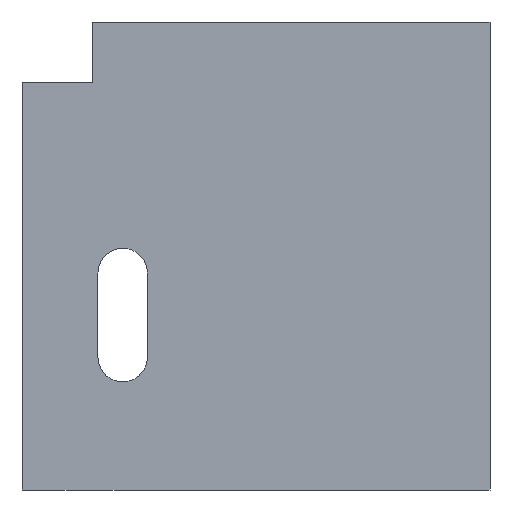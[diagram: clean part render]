
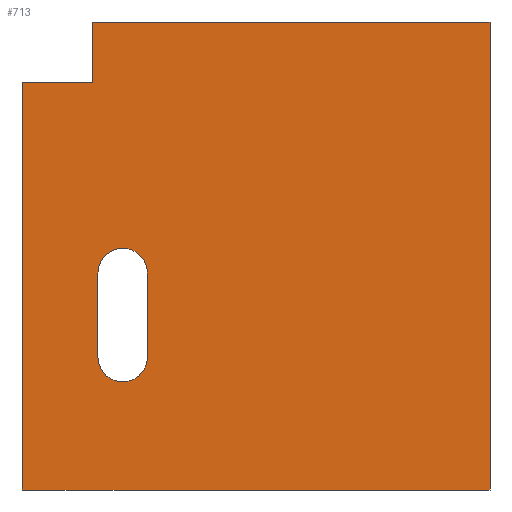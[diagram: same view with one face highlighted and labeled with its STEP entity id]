
A CAD part, left-side view. The second image highlights one B-rep face of the part: STEP entity #713.
In plain terms, the highlighted planar face has unit normal (-1, 0, 0).
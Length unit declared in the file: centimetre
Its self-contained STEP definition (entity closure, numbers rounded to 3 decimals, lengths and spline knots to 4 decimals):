
#3 = CARTESIAN_POINT ( 'NONE',  ( 0., 849.9661, 871.1277 ) ) ;
#6 = CARTESIAN_POINT ( 'NONE',  ( 0., 784.9554, 284.007 ) ) ;
#36 = EDGE_CURVE ( 'NONE', #555, #380, #587, .T. ) ;
#71 = ORIENTED_EDGE ( 'NONE', *, *, #340, .T. ) ;
#73 = CARTESIAN_POINT ( 'NONE',  ( 0., 1000., 871.1277 ) ) ;
#76 = EDGE_CURVE ( 'NONE', #1245, #1369, #1883, .T. ) ;
#79 = AXIS2_PLACEMENT_3D ( 'NONE', #6, #2086, #663 ) ;
#86 = FACE_BOUND ( 'NONE', #1870, .T. ) ;
#128 = DIRECTION ( 'NONE',  ( 0., -1., 0. ) ) ;
#138 = LINE ( 'NONE', #1440, #259 ) ;
#155 = CARTESIAN_POINT ( 'NONE',  ( 0., 784.9554, 284.007 ) ) ;
#194 = CARTESIAN_POINT ( 'NONE',  ( 0., 784.9554, 231.1632 ) ) ;
#196 = LINE ( 'NONE', #644, #763 ) ;
#259 = VECTOR ( 'NONE', #492, 100. ) ;
#273 = PLANE ( 'NONE',  #726 ) ;
#286 = DIRECTION ( 'NONE',  ( 0., -1., 0. ) ) ;
#294 = LINE ( 'NONE', #1586, #884 ) ;
#320 = LINE ( 'NONE', #822, #1523 ) ;
#340 = EDGE_CURVE ( 'NONE', #911, #709, #1749, .T. ) ;
#367 = EDGE_CURVE ( 'NONE', #555, #1245, #320, .T. ) ;
#369 = VERTEX_POINT ( 'NONE', #638 ) ;
#380 = VERTEX_POINT ( 'NONE', #3 ) ;
#442 = CARTESIAN_POINT ( 'NONE',  ( 0., 1000., 1000. ) ) ;
#480 = CARTESIAN_POINT ( 'NONE',  ( 0., 0., 1000. ) ) ;
#492 = DIRECTION ( 'NONE',  ( 0., 0., 1. ) ) ;
#534 = ORIENTED_EDGE ( 'NONE', *, *, #1714, .F. ) ;
#549 = CARTESIAN_POINT ( 'NONE',  ( 0., 732.1115, 463.5552 ) ) ;
#555 = VERTEX_POINT ( 'NONE', #73 ) ;
#559 = CIRCLE ( 'NONE', #1806, 52.8438 ) ;
#587 = LINE ( 'NONE', #1894, #1086 ) ;
#603 = ORIENTED_EDGE ( 'NONE', *, *, #36, .F. ) ;
#609 = VECTOR ( 'NONE', #286, 100. ) ;
#618 = DIRECTION ( 'NONE',  ( 0., 0., 1. ) ) ;
#622 = CARTESIAN_POINT ( 'NONE',  ( 0., 1000., 0. ) ) ;
#630 = VERTEX_POINT ( 'NONE', #888 ) ;
#638 = CARTESIAN_POINT ( 'NONE',  ( 0., 732.1115, 284.007 ) ) ;
#644 = CARTESIAN_POINT ( 'NONE',  ( 0., 732.1115, 284.007 ) ) ;
#654 = CARTESIAN_POINT ( 'NONE',  ( 0., 837.7992, 284.007 ) ) ;
#663 = DIRECTION ( 'NONE',  ( 0., 0., 1. ) ) ;
#673 = VECTOR ( 'NONE', #618, 100. ) ;
#676 = ORIENTED_EDGE ( 'NONE', *, *, #367, .T. ) ;
#709 = VERTEX_POINT ( 'NONE', #1068 ) ;
#713 = ADVANCED_FACE ( 'NONE', ( #86, #1739 ), #273, .F. ) ;
#726 = AXIS2_PLACEMENT_3D ( 'NONE', #442, #1238, #1888 ) ;
#763 = VECTOR ( 'NONE', #1921, 100. ) ;
#779 = ORIENTED_EDGE ( 'NONE', *, *, #809, .T. ) ;
#795 = CIRCLE ( 'NONE', #79, 52.8438 ) ;
#809 = EDGE_CURVE ( 'NONE', #2015, #911, #559, .T. ) ;
#822 = CARTESIAN_POINT ( 'NONE',  ( 0., 1000., 1000. ) ) ;
#884 = VECTOR ( 'NONE', #128, 100. ) ;
#888 = CARTESIAN_POINT ( 'NONE',  ( 0., 849.9661, 1000. ) ) ;
#911 = VERTEX_POINT ( 'NONE', #654 ) ;
#934 = CARTESIAN_POINT ( 'NONE',  ( 0., 1000., 0. ) ) ;
#936 = EDGE_CURVE ( 'NONE', #369, #2015, #795, .T. ) ;
#942 = VECTOR ( 'NONE', #2075, 100. ) ;
#948 = DIRECTION ( 'NONE',  ( 1., 0., 0. ) ) ;
#969 = ORIENTED_EDGE ( 'NONE', *, *, #988, .T. ) ;
#984 = AXIS2_PLACEMENT_3D ( 'NONE', #1630, #1266, #1746 ) ;
#988 = EDGE_CURVE ( 'NONE', #1508, #369, #196, .T. ) ;
#1005 = CARTESIAN_POINT ( 'NONE',  ( 0., 0., 1000. ) ) ;
#1068 = CARTESIAN_POINT ( 'NONE',  ( 0., 837.7992, 463.5552 ) ) ;
#1086 = VECTOR ( 'NONE', #1581, 100. ) ;
#1111 = LINE ( 'NONE', #480, #942 ) ;
#1179 = EDGE_LOOP ( 'NONE', ( #1226, #1252, #603, #676, #2009, #534 ) ) ;
#1226 = ORIENTED_EDGE ( 'NONE', *, *, #1776, .F. ) ;
#1238 = DIRECTION ( 'NONE',  ( 1., 0., 0. ) ) ;
#1245 = VERTEX_POINT ( 'NONE', #622 ) ;
#1252 = ORIENTED_EDGE ( 'NONE', *, *, #1301, .F. ) ;
#1266 = DIRECTION ( 'NONE',  ( 1., 0., 0. ) ) ;
#1301 = EDGE_CURVE ( 'NONE', #380, #630, #138, .T. ) ;
#1369 = VERTEX_POINT ( 'NONE', #1606 ) ;
#1430 = VERTEX_POINT ( 'NONE', #1005 ) ;
#1440 = CARTESIAN_POINT ( 'NONE',  ( 0., 849.9661, 871.1277 ) ) ;
#1508 = VERTEX_POINT ( 'NONE', #549 ) ;
#1523 = VECTOR ( 'NONE', #2091, 100. ) ;
#1581 = DIRECTION ( 'NONE',  ( 0., -1., 0. ) ) ;
#1586 = CARTESIAN_POINT ( 'NONE',  ( 0., 1000., 1000. ) ) ;
#1606 = CARTESIAN_POINT ( 'NONE',  ( 0., 0., 0. ) ) ;
#1630 = CARTESIAN_POINT ( 'NONE',  ( 0., 784.9554, 463.5552 ) ) ;
#1714 = EDGE_CURVE ( 'NONE', #1430, #1369, #1111, .T. ) ;
#1739 = FACE_OUTER_BOUND ( 'NONE', #1179, .T. ) ;
#1746 = DIRECTION ( 'NONE',  ( 0., 0., 1. ) ) ;
#1749 = LINE ( 'NONE', #2081, #673 ) ;
#1776 = EDGE_CURVE ( 'NONE', #630, #1430, #294, .T. ) ;
#1793 = ORIENTED_EDGE ( 'NONE', *, *, #1904, .T. ) ;
#1806 = AXIS2_PLACEMENT_3D ( 'NONE', #155, #948, #1964 ) ;
#1870 = EDGE_LOOP ( 'NONE', ( #969, #2063, #779, #71, #1793 ) ) ;
#1883 = LINE ( 'NONE', #934, #609 ) ;
#1888 = DIRECTION ( 'NONE',  ( 0., 0., -1. ) ) ;
#1894 = CARTESIAN_POINT ( 'NONE',  ( 0., 849.9661, 871.1277 ) ) ;
#1904 = EDGE_CURVE ( 'NONE', #709, #1508, #1961, .T. ) ;
#1921 = DIRECTION ( 'NONE',  ( 0., 0., -1. ) ) ;
#1961 = CIRCLE ( 'NONE', #984, 52.8438 ) ;
#1964 = DIRECTION ( 'NONE',  ( 0., 0., 1. ) ) ;
#2009 = ORIENTED_EDGE ( 'NONE', *, *, #76, .T. ) ;
#2015 = VERTEX_POINT ( 'NONE', #194 ) ;
#2063 = ORIENTED_EDGE ( 'NONE', *, *, #936, .T. ) ;
#2075 = DIRECTION ( 'NONE',  ( 0., 0., -1. ) ) ;
#2081 = CARTESIAN_POINT ( 'NONE',  ( 0., 837.7992, 463.5552 ) ) ;
#2086 = DIRECTION ( 'NONE',  ( 1., 0., 0. ) ) ;
#2091 = DIRECTION ( 'NONE',  ( 0., 0., -1. ) ) ;
